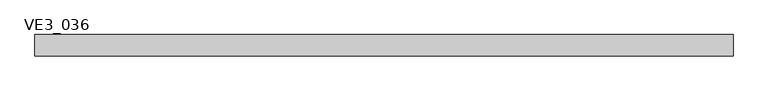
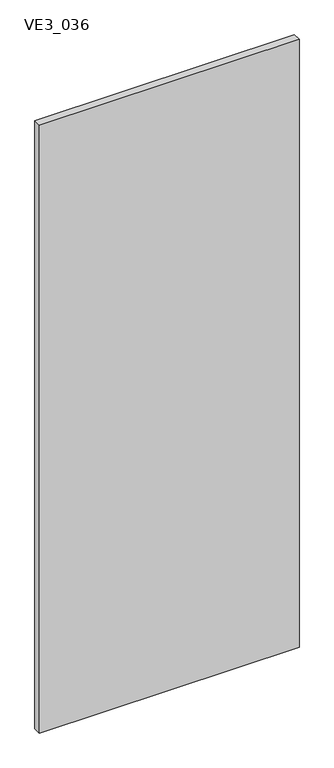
"""IFC4 building model written with IfcOpenShell, lengths in millimetres: plate geometry, TRP_CP_ARC_PF_RE_SE : VE3_036."""

from ifc_helpers import new_model, si_unit, frame, origin, place, context, project, spatial, polyline, outline, extrude, source, transform, mapped, element, save


def ve3_036_7e27dd58(model_context):
    return source(origin(), model_context, "Body", "SweptSolid", [
        extrude(outline(polyline([(592.5, 18.0), (592.5, -18.0), (-592.5, -18.0), (-592.5, 18.0), (592.5, 18.0)])), frame((0.0, 0.0, -3.1739529), z_axis=(0.0, 0.0, 1.0), x_axis=(1.0, 0.0, 0.0)), (0.0, 0.0, 1.0), 2933.1739529),
    ])


if __name__ == "__main__":
    model = new_model("IFC4")
    model_context = context("Model", 3, world=origin())
    ifc_project = project(units=[si_unit("LENGTHUNIT", "METRE", prefix="MILLI")], contexts=[model_context])
    site = spatial("IfcSite", under=ifc_project)
    building = spatial("IfcBuilding", under=site)
    placement = place(None, origin())
    ve3_036_shape = ve3_036_7e27dd58(model_context)
    element("IfcPlate", 1, ObjectType="TRP_CP_ARC_PF_RE_SE : VE3_036", at=placement, inside=building, context=model_context, shape_type="MappedRepresentation", body=[
        mapped(ve3_036_shape, transform((0.0, 0.0, 0.0), x_axis=(1.0, 0.0, 0.0), y_axis=(0.0, 1.0, 0.0), z_axis=(0.0, 0.0, 1.0))),
    ])
    save(model, "model.ifc")
